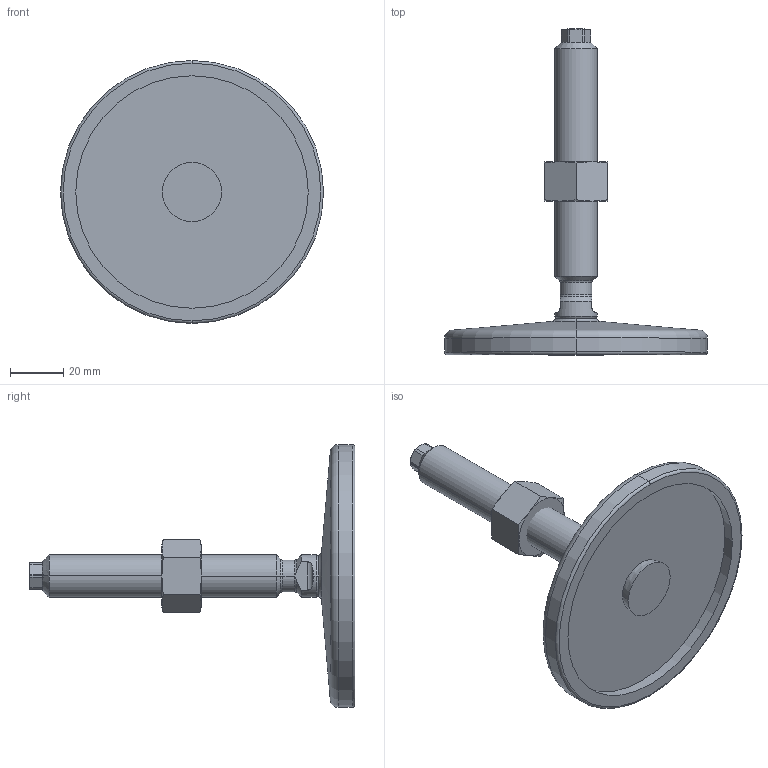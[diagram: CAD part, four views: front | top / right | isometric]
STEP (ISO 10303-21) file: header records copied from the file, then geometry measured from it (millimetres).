
FILE_DESCRIPTION (( 'STEP AP214' ), '1' );
FILE_NAME ('21-100-M16-100-D0-VK.step', '2020-10-02T17:36:53', ( '' ), ( '' ), 'SwSTEP 2.0', 'SolidWorks 2019', '' );
FILE_SCHEMA (( 'AUTOMOTIVE_DESIGN' ));
Length unit declared in the file: millimetre
Products named in the file (4): WB21_Fußteller 21^WB21_V_D0-100-R10-B7 (M8 M10_M12_M16); 21-100-M16-100-D0-VK; WB4032^WB21_V_M16; WB21_Spindel_V^WB21_V_M16-100
Assembly tree (3 placements, depth 2):
  21-100-M16-100-D0-VK
    WB21_Fußteller 21^WB21_V_D0-100-R10-B7 (M8 M10_M12_M16)
    WB21_Spindel_V^WB21_V_M16-100
    WB4032^WB21_V_M16
Bounding box: 99 x 122.64 x 99 mm (x, y, z)
Volume: 79472.9 mm3; surface area: 28075.6 mm2
Topology: 3 solids, 3 shells, 101 faces, 225 edges, 133 vertices
Faces by surface type: cone 33, plane 29, cylinder 25, torus 10, sphere 4
Entity records: 3168 total; most frequent: CARTESIAN_POINT 741, DIRECTION 492, ORIENTED_EDGE 450, EDGE_CURVE 225, AXIS2_PLACEMENT_3D 212, VERTEX_POINT 133, EDGE_LOOP 106, CIRCLE 105
